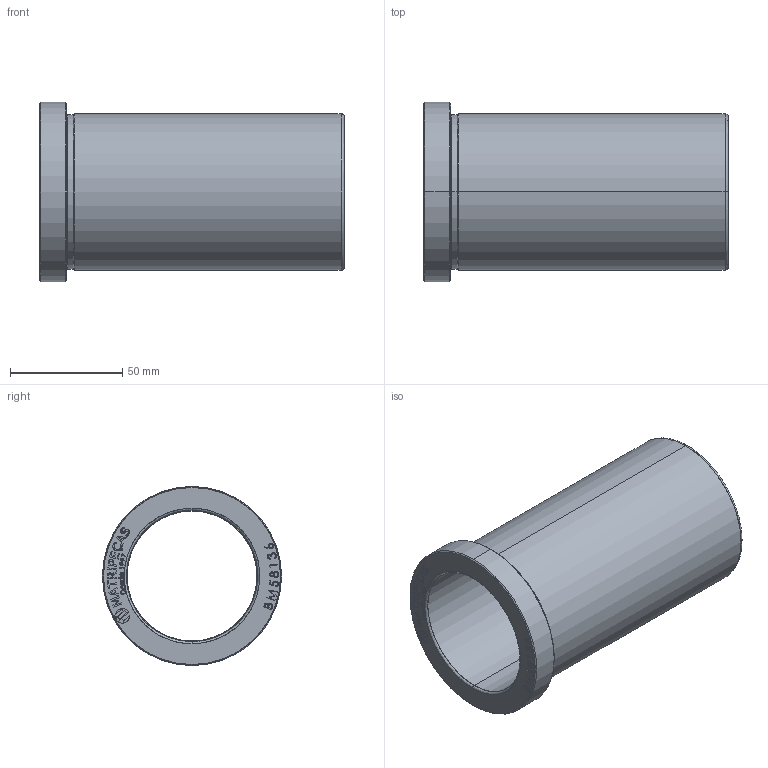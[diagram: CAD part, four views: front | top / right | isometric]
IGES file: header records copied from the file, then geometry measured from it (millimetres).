
Start section: SolidWorks IGES file using analytic representation for surfaces
Global section: file name: C:\Users\evers\OneDrive\Área de Trabalho\Trivector\MATRIPEÇAS\BM - BUCHA PRINCIPAL TIPO E31\BM58136.IGS; native system: SolidWorks 2024; preprocessor: SolidWorks 2024; author: evers; date: 260903.144255; units: millimetre
Bounding box: 136 x 80 x 80 mm (x, y, z)
Surface area: 59467.4 mm2 (no closed solid volume)
Topology: 0 solids, 0 shells, 419 faces, 5413 edges, 5413 vertices
Faces by surface type: bspline 390, revolution 29
